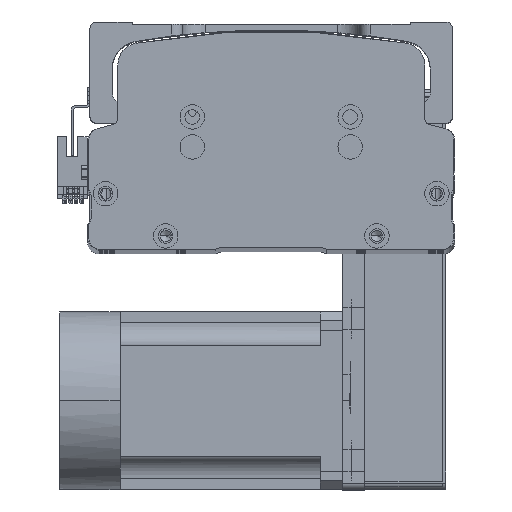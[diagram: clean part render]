
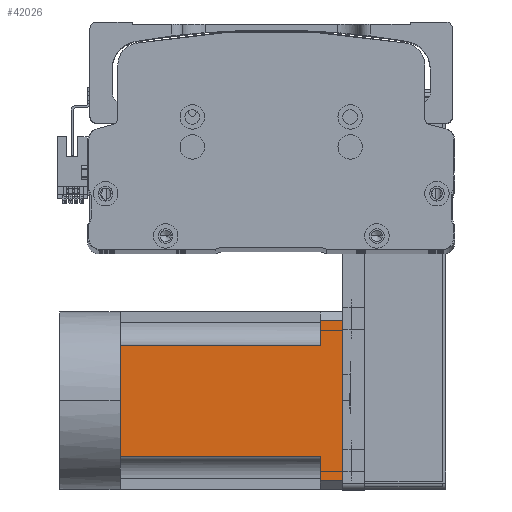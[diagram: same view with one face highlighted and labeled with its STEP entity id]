
A CAD part, top view. The second image highlights one B-rep face of the part: STEP entity #42026.
In plain terms, the highlighted planar face has unit normal (0, 0, 1) as drawn and (0, 0, -1) by its records, which use the part's own axes.
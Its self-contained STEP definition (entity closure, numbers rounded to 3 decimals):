
#2788 = ORIENTED_EDGE ( 'NONE', *, *, #22767, .T. ) ;
#3273 = LINE ( 'NONE', #51013, #54919 ) ;
#4607 = VERTEX_POINT ( 'NONE', #26907 ) ;
#5655 = CARTESIAN_POINT ( 'NONE',  ( 25., -27., -40. ) ) ;
#6518 = DIRECTION ( 'NONE',  ( -1., 0., 0. ) ) ;
#7201 = PLANE ( 'NONE',  #30439 ) ;
#7333 = ORIENTED_EDGE ( 'NONE', *, *, #28353, .T. ) ;
#8417 = EDGE_CURVE ( 'NONE', #56496, #58529, #33087, .T. ) ;
#8793 = EDGE_CURVE ( 'NONE', #58529, #49805, #3273, .T. ) ;
#9922 = EDGE_CURVE ( 'NONE', #24159, #42986, #10950, .T. ) ;
#10041 = CARTESIAN_POINT ( 'NONE',  ( 36., 100., -40. ) ) ;
#10950 = LINE ( 'NONE', #45961, #37509 ) ;
#12673 = CARTESIAN_POINT ( 'NONE',  ( -40., 0., -40. ) ) ;
#13388 = LINE ( 'NONE', #31422, #23536 ) ;
#14705 = DIRECTION ( 'NONE',  ( -1., 0., 0. ) ) ;
#17268 = DIRECTION ( 'NONE',  ( 0., 0., -1. ) ) ;
#18922 = LINE ( 'NONE', #22677, #57250 ) ;
#19540 = ORIENTED_EDGE ( 'NONE', *, *, #8417, .T. ) ;
#22352 = VECTOR ( 'NONE', #55733, 1000. ) ;
#22677 = CARTESIAN_POINT ( 'NONE',  ( -36., -27., -40. ) ) ;
#22703 = VERTEX_POINT ( 'NONE', #10041 ) ;
#22767 = EDGE_CURVE ( 'NONE', #42986, #4607, #35636, .T. ) ;
#23536 = VECTOR ( 'NONE', #6518, 1000. ) ;
#23954 = CARTESIAN_POINT ( 'NONE',  ( -25., 90., -40. ) ) ;
#24159 = VERTEX_POINT ( 'NONE', #26916 ) ;
#24234 = VECTOR ( 'NONE', #34942, 1000. ) ;
#25832 = ORIENTED_EDGE ( 'NONE', *, *, #9922, .T. ) ;
#26017 = DIRECTION ( 'NONE',  ( -1., 0., 0. ) ) ;
#26907 = CARTESIAN_POINT ( 'NONE',  ( 25., 0., -40. ) ) ;
#26916 = CARTESIAN_POINT ( 'NONE',  ( 36., 90., -40. ) ) ;
#28278 = DIRECTION ( 'NONE',  ( -1., 0., 0. ) ) ;
#28353 = EDGE_CURVE ( 'NONE', #49805, #48309, #13388, .T. ) ;
#28743 = VECTOR ( 'NONE', #14705, 1000. ) ;
#29086 = EDGE_CURVE ( 'NONE', #22703, #24159, #39098, .T. ) ;
#29233 = FACE_OUTER_BOUND ( 'NONE', #43663, .T. ) ;
#30439 = AXIS2_PLACEMENT_3D ( 'NONE', #42161, #17268, #52239 ) ;
#31422 = CARTESIAN_POINT ( 'NONE',  ( -40., 90., -40. ) ) ;
#31480 = ORIENTED_EDGE ( 'NONE', *, *, #49660, .T. ) ;
#31502 = VECTOR ( 'NONE', #28278, 1000. ) ;
#32554 = DIRECTION ( 'NONE',  ( -1., 0., 0. ) ) ;
#33087 = LINE ( 'NONE', #43171, #31502 ) ;
#34942 = DIRECTION ( 'NONE',  ( 0., -1., 0. ) ) ;
#35636 = LINE ( 'NONE', #5655, #22352 ) ;
#36319 = DIRECTION ( 'NONE',  ( 0., 1., 0. ) ) ;
#36550 = ORIENTED_EDGE ( 'NONE', *, *, #29086, .T. ) ;
#37509 = VECTOR ( 'NONE', #26017, 1000. ) ;
#39098 = LINE ( 'NONE', #49808, #24234 ) ;
#41383 = LINE ( 'NONE', #12673, #53148 ) ;
#42026 = ADVANCED_FACE ( 'NONE', ( #29233 ), #7201, .T. ) ;
#42161 = CARTESIAN_POINT ( 'NONE',  ( -40., -27., -40. ) ) ;
#42590 = ORIENTED_EDGE ( 'NONE', *, *, #8793, .T. ) ;
#42986 = VERTEX_POINT ( 'NONE', #57154 ) ;
#43171 = CARTESIAN_POINT ( 'NONE',  ( -40., 0., -40. ) ) ;
#43605 = LINE ( 'NONE', #50119, #28743 ) ;
#43663 = EDGE_LOOP ( 'NONE', ( #64155, #36550, #25832, #2788, #61331, #19540, #42590, #7333, #31480 ) ) ;
#45961 = CARTESIAN_POINT ( 'NONE',  ( -40., 90., -40. ) ) ;
#48309 = VERTEX_POINT ( 'NONE', #54569 ) ;
#48587 = CARTESIAN_POINT ( 'NONE',  ( 0., 0., -40. ) ) ;
#49660 = EDGE_CURVE ( 'NONE', #48309, #60079, #18922, .T. ) ;
#49805 = VERTEX_POINT ( 'NONE', #23954 ) ;
#49808 = CARTESIAN_POINT ( 'NONE',  ( 36., -27., -40. ) ) ;
#50119 = CARTESIAN_POINT ( 'NONE',  ( -40., 100., -40. ) ) ;
#51013 = CARTESIAN_POINT ( 'NONE',  ( -25., -27., -40. ) ) ;
#52239 = DIRECTION ( 'NONE',  ( -1., 0., 0. ) ) ;
#53148 = VECTOR ( 'NONE', #32554, 1000. ) ;
#54569 = CARTESIAN_POINT ( 'NONE',  ( -36., 90., -40. ) ) ;
#54919 = VECTOR ( 'NONE', #36319, 1000. ) ;
#55733 = DIRECTION ( 'NONE',  ( 0., -1., 0. ) ) ;
#56496 = VERTEX_POINT ( 'NONE', #48587 ) ;
#56960 = EDGE_CURVE ( 'NONE', #4607, #56496, #41383, .T. ) ;
#57154 = CARTESIAN_POINT ( 'NONE',  ( 25., 90., -40. ) ) ;
#57250 = VECTOR ( 'NONE', #57692, 1000. ) ;
#57510 = CARTESIAN_POINT ( 'NONE',  ( -25., 0., -40. ) ) ;
#57692 = DIRECTION ( 'NONE',  ( 0., 1., 0. ) ) ;
#58529 = VERTEX_POINT ( 'NONE', #57510 ) ;
#60079 = VERTEX_POINT ( 'NONE', #61503 ) ;
#61200 = EDGE_CURVE ( 'NONE', #22703, #60079, #43605, .T. ) ;
#61331 = ORIENTED_EDGE ( 'NONE', *, *, #56960, .T. ) ;
#61503 = CARTESIAN_POINT ( 'NONE',  ( -36., 100., -40. ) ) ;
#64155 = ORIENTED_EDGE ( 'NONE', *, *, #61200, .F. ) ;
